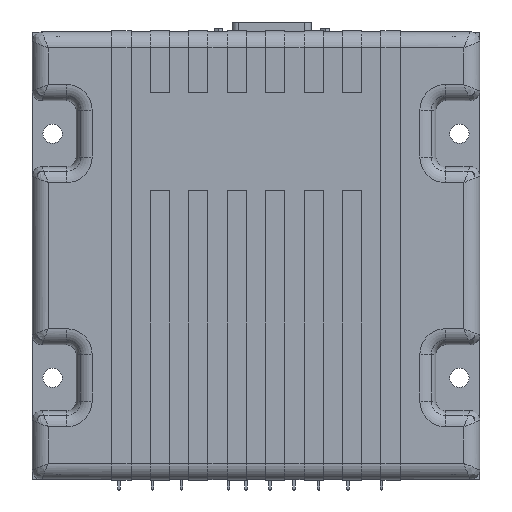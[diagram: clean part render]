
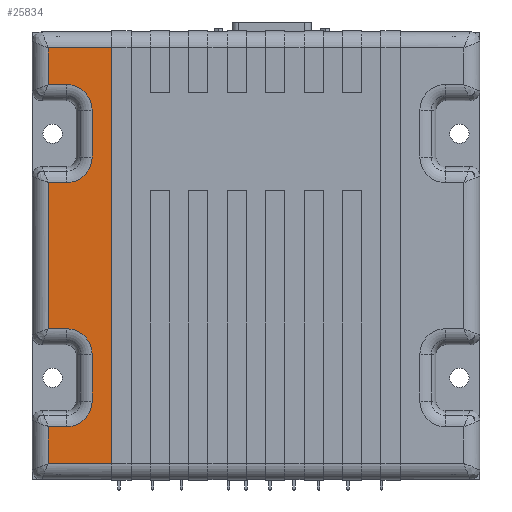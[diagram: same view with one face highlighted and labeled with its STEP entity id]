
A CAD part, top view. The second image highlights one B-rep face of the part: STEP entity #25834.
In plain terms, the highlighted planar face has unit normal (0, 0, 1) as drawn and (0, 0, -1) by its records, which use the part's own axes.
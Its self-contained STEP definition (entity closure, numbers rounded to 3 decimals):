
#20707=DIRECTION('',(0.,1.,0.));
#20708=VECTOR('',#20707,129.7);
#20709=CARTESIAN_POINT('',(24.85,5.,0.));
#20710=LINE('',#20709,#20708);
#20711=DIRECTION('',(1.,0.,0.));
#20712=VECTOR('',#20711,19.85);
#20713=CARTESIAN_POINT('',(5.,134.7,0.));
#20714=LINE('',#20713,#20712);
#20715=DIRECTION('',(0.,1.,0.));
#20716=VECTOR('',#20715,11.45);
#20717=CARTESIAN_POINT('',(5.,123.25,0.));
#20718=LINE('',#20717,#20716);
#20719=DIRECTION('',(-1.,0.,0.));
#20720=VECTOR('',#20719,5.7);
#20721=CARTESIAN_POINT('',(10.7,123.25,0.));
#20722=LINE('',#20721,#20720);
#20723=CARTESIAN_POINT('',(10.7,115.25,0.));
#20724=DIRECTION('',(0.,0.,1.));
#20725=DIRECTION('',(1.,0.,0.));
#20726=AXIS2_PLACEMENT_3D('',#20723,#20724,#20725);
#20728=DIRECTION('',(0.,1.,0.));
#20729=VECTOR('',#20728,14.6);
#20730=CARTESIAN_POINT('',(18.7,100.65,0.));
#20731=LINE('',#20730,#20729);
#20732=CARTESIAN_POINT('',(10.7,100.65,0.));
#20733=DIRECTION('',(0.,0.,1.));
#20734=DIRECTION('',(0.,-1.,0.));
#20735=AXIS2_PLACEMENT_3D('',#20732,#20733,#20734);
#20737=DIRECTION('',(1.,0.,0.));
#20738=VECTOR('',#20737,5.7);
#20739=CARTESIAN_POINT('',(5.,92.65,0.));
#20740=LINE('',#20739,#20738);
#20741=DIRECTION('',(0.,1.,0.));
#20742=VECTOR('',#20741,45.6);
#20743=CARTESIAN_POINT('',(5.,47.05,0.));
#20744=LINE('',#20743,#20742);
#20745=DIRECTION('',(-1.,0.,0.));
#20746=VECTOR('',#20745,5.7);
#20747=CARTESIAN_POINT('',(10.7,47.05,0.));
#20748=LINE('',#20747,#20746);
#20749=CARTESIAN_POINT('',(10.7,39.05,0.));
#20750=DIRECTION('',(0.,0.,1.));
#20751=DIRECTION('',(1.,0.,0.));
#20752=AXIS2_PLACEMENT_3D('',#20749,#20750,#20751);
#20754=DIRECTION('',(0.,1.,0.));
#20755=VECTOR('',#20754,14.6);
#20756=CARTESIAN_POINT('',(18.7,24.45,0.));
#20757=LINE('',#20756,#20755);
#20758=CARTESIAN_POINT('',(10.7,24.45,0.));
#20759=DIRECTION('',(0.,0.,1.));
#20760=DIRECTION('',(0.,-1.,0.));
#20761=AXIS2_PLACEMENT_3D('',#20758,#20759,#20760);
#20763=DIRECTION('',(1.,0.,0.));
#20764=VECTOR('',#20763,5.7);
#20765=CARTESIAN_POINT('',(5.,16.45,0.));
#20766=LINE('',#20765,#20764);
#20767=DIRECTION('',(0.,1.,0.));
#20768=VECTOR('',#20767,11.45);
#20769=CARTESIAN_POINT('',(5.,5.,0.));
#20770=LINE('',#20769,#20768);
#20771=DIRECTION('',(-1.,0.,0.));
#20772=VECTOR('',#20771,19.85);
#20773=CARTESIAN_POINT('',(24.85,5.,0.));
#20774=LINE('',#20773,#20772);
#24939=CARTESIAN_POINT('',(5.,5.,0.));
#24940=CARTESIAN_POINT('',(5.,16.45,0.));
#24941=VERTEX_POINT('',#24939);
#24942=VERTEX_POINT('',#24940);
#24947=CARTESIAN_POINT('',(10.7,47.05,0.));
#24948=CARTESIAN_POINT('',(5.,47.05,0.));
#24949=VERTEX_POINT('',#24947);
#24950=VERTEX_POINT('',#24948);
#24951=CARTESIAN_POINT('',(18.7,39.05,0.));
#24952=VERTEX_POINT('',#24951);
#24955=CARTESIAN_POINT('',(18.7,24.45,0.));
#24956=VERTEX_POINT('',#24955);
#24959=CARTESIAN_POINT('',(10.7,16.45,0.));
#24960=VERTEX_POINT('',#24959);
#24969=CARTESIAN_POINT('',(5.,92.65,0.));
#24970=VERTEX_POINT('',#24969);
#24971=CARTESIAN_POINT('',(10.7,92.65,0.));
#24972=VERTEX_POINT('',#24971);
#24977=CARTESIAN_POINT('',(18.7,100.65,0.));
#24978=VERTEX_POINT('',#24977);
#24981=CARTESIAN_POINT('',(18.7,115.25,0.));
#24982=VERTEX_POINT('',#24981);
#24985=CARTESIAN_POINT('',(10.7,123.25,0.));
#24986=VERTEX_POINT('',#24985);
#24991=CARTESIAN_POINT('',(5.,123.25,0.));
#24992=VERTEX_POINT('',#24991);
#24993=CARTESIAN_POINT('',(5.,134.7,0.));
#24994=VERTEX_POINT('',#24993);
#25467=CARTESIAN_POINT('',(24.85,5.,0.));
#25468=VERTEX_POINT('',#25467);
#25469=CARTESIAN_POINT('',(24.85,134.7,0.));
#25470=VERTEX_POINT('',#25469);
#25795=CARTESIAN_POINT('',(0.,0.,0.));
#25796=DIRECTION('',(0.,0.,1.));
#25797=DIRECTION('',(1.,0.,0.));
#25798=AXIS2_PLACEMENT_3D('',#25795,#25796,#25797);
#25799=PLANE('',#25798);
#25801=ORIENTED_EDGE('',*,*,#25800,.T.);
#25803=ORIENTED_EDGE('',*,*,#25802,.F.);
#25805=ORIENTED_EDGE('',*,*,#25804,.F.);
#25807=ORIENTED_EDGE('',*,*,#25806,.F.);
#25809=ORIENTED_EDGE('',*,*,#25808,.F.);
#25811=ORIENTED_EDGE('',*,*,#25810,.F.);
#25813=ORIENTED_EDGE('',*,*,#25812,.F.);
#25815=ORIENTED_EDGE('',*,*,#25814,.F.);
#25817=ORIENTED_EDGE('',*,*,#25816,.F.);
#25819=ORIENTED_EDGE('',*,*,#25818,.F.);
#25821=ORIENTED_EDGE('',*,*,#25820,.F.);
#25823=ORIENTED_EDGE('',*,*,#25822,.F.);
#25825=ORIENTED_EDGE('',*,*,#25824,.F.);
#25827=ORIENTED_EDGE('',*,*,#25826,.F.);
#25829=ORIENTED_EDGE('',*,*,#25828,.F.);
#25831=ORIENTED_EDGE('',*,*,#25830,.F.);
#25832=EDGE_LOOP('',(#25801,#25803,#25805,#25807,#25809,#25811,#25813,#25815,
#25817,#25819,#25821,#25823,#25825,#25827,#25829,#25831));
#25833=FACE_OUTER_BOUND('',#25832,.F.);
#25834=ADVANCED_FACE('',(#25833),#25799,.F.);
#20727=CIRCLE('',#20726,8.);
#20736=CIRCLE('',#20735,8.);
#20753=CIRCLE('',#20752,8.);
#20762=CIRCLE('',#20761,8.);
#25800=EDGE_CURVE('',#25468,#25470,#20710,.T.);
#25802=EDGE_CURVE('',#24994,#25470,#20714,.T.);
#25804=EDGE_CURVE('',#24992,#24994,#20718,.T.);
#25806=EDGE_CURVE('',#24986,#24992,#20722,.T.);
#25808=EDGE_CURVE('',#24982,#24986,#20727,.T.);
#25810=EDGE_CURVE('',#24978,#24982,#20731,.T.);
#25812=EDGE_CURVE('',#24972,#24978,#20736,.T.);
#25814=EDGE_CURVE('',#24970,#24972,#20740,.T.);
#25816=EDGE_CURVE('',#24950,#24970,#20744,.T.);
#25818=EDGE_CURVE('',#24949,#24950,#20748,.T.);
#25820=EDGE_CURVE('',#24952,#24949,#20753,.T.);
#25822=EDGE_CURVE('',#24956,#24952,#20757,.T.);
#25824=EDGE_CURVE('',#24960,#24956,#20762,.T.);
#25826=EDGE_CURVE('',#24942,#24960,#20766,.T.);
#25828=EDGE_CURVE('',#24941,#24942,#20770,.T.);
#25830=EDGE_CURVE('',#25468,#24941,#20774,.T.);
